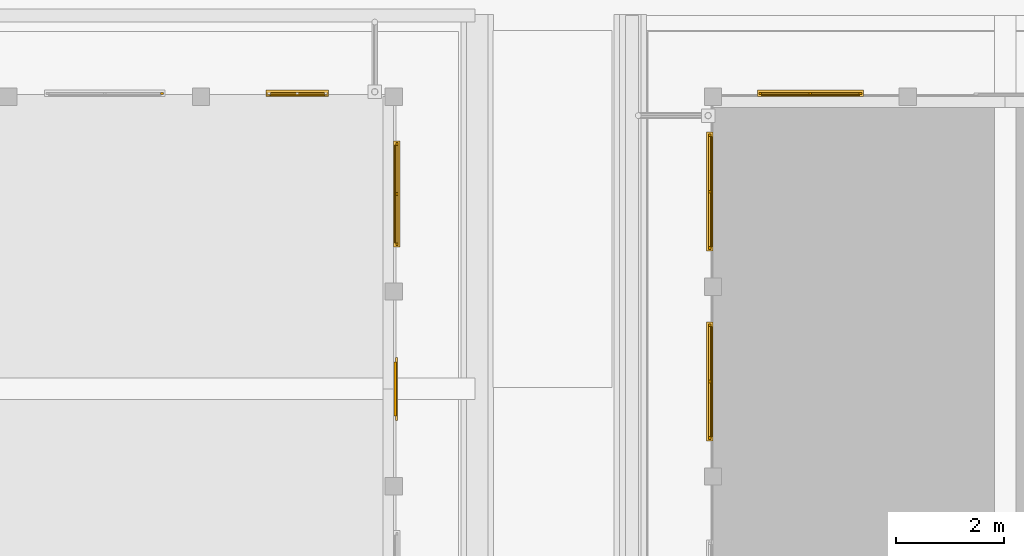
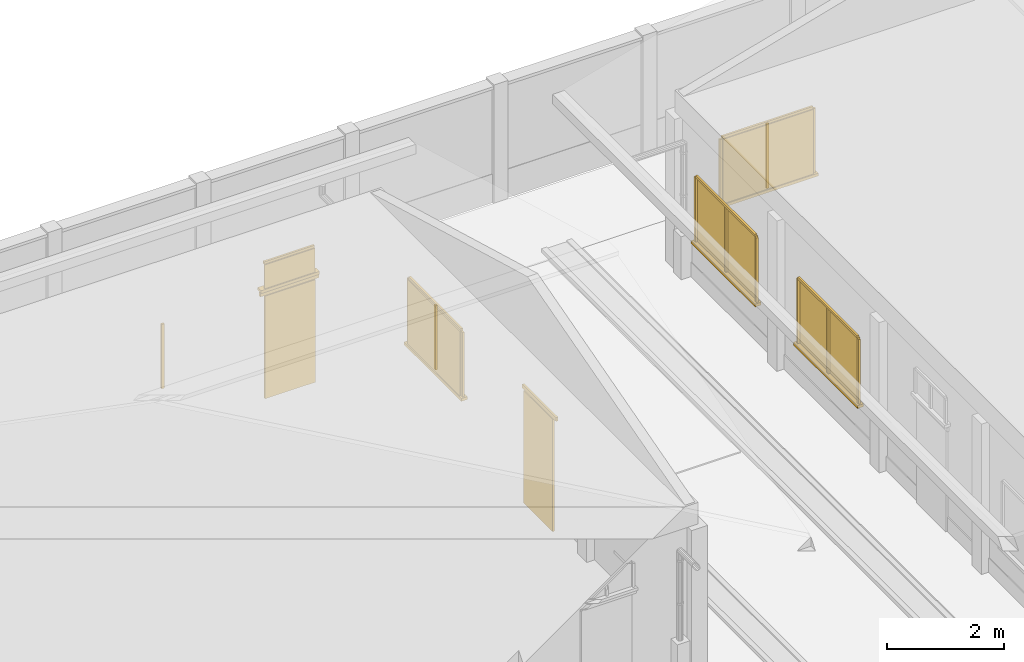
# One storey, part 70 of 177: 28 windows, 4 doors.
"""IFC4 building model written with IfcOpenShell, lengths in metres."""

from ifc_helpers import new_model, si_unit, origin, origin_with_axes, place, context, subcontext, project, spatial, triangles, element, save


model = new_model("IFC4")

# Units and contexts
model_context = context("Model", 3, precision=1e-05, world=origin_with_axes())
body_context = subcontext(model_context, "Body", "Model", "MODEL_VIEW")
ifc_project = project(units=[si_unit("LENGTHUNIT", "METRE"), si_unit("AREAUNIT", "SQUARE_METRE"), si_unit("VOLUMEUNIT", "CUBIC_METRE"), si_unit("PLANEANGLEUNIT", "RADIAN")], contexts=[model_context])

# Site, building, storey
site_placement = place(None, origin_with_axes())
site = spatial("IfcSite", under=ifc_project, at=site_placement, Name="Predio Los Mangos - Morales, San Martín", CompositionType="ELEMENT")
building_placement = place(site_placement, origin())
building = spatial("IfcBuilding", under=site, at=building_placement, Name="Hogar de Refugio Temporal", CompositionType="ELEMENT")
storey_placement = place(building_placement, origin())
storey = spatial("IfcBuildingStorey", under=building, at=storey_placement, Name="NIVEL 1 (NPT +0.00)", CompositionType="ELEMENT", Elevation=0.0)

# Window
window_1_placement = place(storey_placement, origin())
element("IfcWindow", 1, at=window_1_placement, inside=storey, Name="E-08_v3_m", ObjectType="Ventana", PredefinedType="WINDOW", context=body_context, shape_type="Tessellation", body=[
    triangles([(45.4924, 127.84, 1.05), (45.5424, 127.84, 1.05), (45.5424, 127.88, 1.05), (45.4924, 127.88, 1.05), (45.4924, 127.84, 2.4), (45.5424, 127.84, 2.4), (45.5424, 127.88, 2.4), (45.4924, 127.88, 2.4)], [[1, 4, 3], [1, 3, 2], [5, 6, 7], [5, 7, 8], [1, 2, 6], [1, 6, 5], [2, 3, 7], [2, 7, 6], [3, 4, 8], [3, 8, 7], [4, 1, 5], [4, 5, 8]]),
])

# Doors
door_1_placement = place(storey_placement, origin())
element("IfcDoor", 2, at=door_1_placement, inside=storey, Name="E-08_p4", ObjectType="Puerta", PredefinedType="DOOR", context=body_context, shape_type="Tessellation", body=[
    triangles([(47.52, 127.81, 0.15), (48.52, 127.81, 0.15), (48.52, 127.85, 0.15), (47.52, 127.85, 0.15), (47.52, 127.81, 2.3), (48.52, 127.81, 2.3), (48.52, 127.85, 2.3), (47.52, 127.85, 2.3)], [[1, 4, 3], [1, 3, 2], [5, 6, 7], [5, 7, 8], [1, 2, 6], [1, 6, 5], [2, 3, 7], [2, 7, 6], [3, 4, 8], [3, 8, 7], [4, 1, 5], [4, 5, 8]]),
])
door_2_placement = place(storey_placement, origin())
element("IfcDoor", 3, at=door_2_placement, inside=storey, Name="E-08_p4_marco", ObjectType="Puerta", PredefinedType="DOOR", context=body_context, shape_type="Tessellation", body=[
    triangles([(47.44, 127.83, 2.3), (48.6, 127.83, 2.3), (48.6, 127.87, 2.3), (47.44, 127.87, 2.3), (47.44, 127.83, 2.38), (48.6, 127.83, 2.38), (48.6, 127.87, 2.38), (47.44, 127.87, 2.38)], [[1, 4, 3], [1, 3, 2], [5, 6, 7], [5, 7, 8], [1, 2, 6], [1, 6, 5], [2, 3, 7], [2, 7, 6], [3, 4, 8], [3, 8, 7], [4, 1, 5], [4, 5, 8]]),
])

# Windows
window_2_placement = place(storey_placement, origin())
element("IfcWindow", 4, at=window_2_placement, inside=storey, Name="E-08_vt4_vid", ObjectType="Ventana", PredefinedType="WINDOW", context=body_context, shape_type="Tessellation", body=[
    triangles([(47.52, 127.82, 2.45), (48.52, 127.82, 2.45), (48.52, 127.84, 2.45), (47.52, 127.84, 2.45), (47.52, 127.82, 2.95), (48.52, 127.82, 2.95), (48.52, 127.84, 2.95), (47.52, 127.84, 2.95)], [[1, 4, 3], [1, 3, 2], [5, 6, 7], [5, 7, 8], [1, 2, 6], [1, 6, 5], [2, 3, 7], [2, 7, 6], [3, 4, 8], [3, 8, 7], [4, 1, 5], [4, 5, 8]]),
])
window_3_placement = place(storey_placement, origin())
element("IfcWindow", 5, at=window_3_placement, inside=storey, Name="E-08_vt4_m", ObjectType="Ventana", PredefinedType="WINDOW", context=body_context, shape_type="Tessellation", body=[
    triangles([(47.52, 127.84, 2.95), (48.52, 127.84, 2.95), (48.52, 127.88, 2.95), (47.52, 127.88, 2.95), (47.52, 127.84, 3.0), (48.52, 127.84, 3.0), (48.52, 127.88, 3.0), (47.52, 127.88, 3.0)], [[1, 4, 3], [1, 3, 2], [5, 6, 7], [5, 7, 8], [1, 2, 6], [1, 6, 5], [2, 3, 7], [2, 7, 6], [3, 4, 8], [3, 8, 7], [4, 1, 5], [4, 5, 8]]),
])
window_4_placement = place(storey_placement, origin())
element("IfcWindow", 6, at=window_4_placement, inside=storey, Name="E-08_vt4_alf", ObjectType="Ventana", PredefinedType="WINDOW", context=body_context, shape_type="Tessellation", body=[
    triangles([(47.44, 127.8, 2.39), (48.6, 127.8, 2.39), (48.6, 127.92, 2.39), (47.44, 127.92, 2.39), (47.44, 127.8, 2.45), (48.6, 127.8, 2.45), (48.6, 127.92, 2.45), (47.44, 127.92, 2.45)], [[1, 4, 3], [1, 3, 2], [5, 6, 7], [5, 7, 8], [1, 2, 6], [1, 6, 5], [2, 3, 7], [2, 7, 6], [3, 4, 8], [3, 8, 7], [4, 1, 5], [4, 5, 8]]),
])

# Doors
door_3_placement = place(storey_placement, origin())
element("IfcDoor", 7, at=door_3_placement, inside=storey, Name="E-08_pp", ObjectType="Puerta", PredefinedType="DOOR", context=body_context, shape_type="Tessellation", body=[
    triangles([(49.81, 121.9, 0.15), (49.85, 121.9, 0.15), (49.85, 122.9, 0.15), (49.81, 122.9, 0.15), (49.81, 121.9, 2.5), (49.85, 121.9, 2.5), (49.85, 122.9, 2.5), (49.81, 122.9, 2.5)], [[1, 4, 3], [1, 3, 2], [5, 6, 7], [5, 7, 8], [1, 2, 6], [1, 6, 5], [2, 3, 7], [2, 7, 6], [3, 4, 8], [3, 8, 7], [4, 1, 5], [4, 5, 8]]),
])
door_4_placement = place(storey_placement, origin())
element("IfcDoor", 8, at=door_4_placement, inside=storey, Name="E-08_pp_marco", ObjectType="Puerta", PredefinedType="DOOR", context=body_context, shape_type="Tessellation", body=[
    triangles([(49.83, 121.82, 2.5), (49.87, 121.82, 2.5), (49.87, 122.98, 2.5), (49.83, 122.98, 2.5), (49.83, 121.82, 2.58), (49.87, 121.82, 2.58), (49.87, 122.98, 2.58), (49.83, 122.98, 2.58)], [[1, 4, 3], [1, 3, 2], [5, 6, 7], [5, 7, 8], [1, 2, 6], [1, 6, 5], [2, 3, 7], [2, 7, 6], [3, 4, 8], [3, 8, 7], [4, 1, 5], [4, 5, 8]]),
])

# Windows
window_5_placement = place(storey_placement, origin())
element("IfcWindow", 9, at=window_5_placement, inside=storey, Name="E-08_vg2_vid", ObjectType="Ventana", PredefinedType="WINDOW", context=body_context, shape_type="Tessellation", body=[
    triangles([(49.82, 125.1, 1.05), (49.84, 125.1, 1.05), (49.84, 126.9, 1.05), (49.82, 126.9, 1.05), (49.82, 125.1, 2.4), (49.84, 125.1, 2.4), (49.84, 126.9, 2.4), (49.82, 126.9, 2.4)], [[1, 4, 3], [1, 3, 2], [5, 6, 7], [5, 7, 8], [1, 2, 6], [1, 6, 5], [2, 3, 7], [2, 7, 6], [3, 4, 8], [3, 8, 7], [4, 1, 5], [4, 5, 8]]),
])
window_6_placement = place(storey_placement, origin())
element("IfcWindow", 10, at=window_6_placement, inside=storey, Name="E-08_vg2_m", ObjectType="Ventana", PredefinedType="WINDOW", context=body_context, shape_type="Tessellation", body=[
    triangles([(49.84, 125.05, 1.05), (49.88, 125.05, 1.05), (49.88, 125.1, 1.05), (49.84, 125.1, 1.05), (49.84, 125.05, 2.4), (49.88, 125.05, 2.4), (49.88, 125.1, 2.4), (49.84, 125.1, 2.4)], [[1, 4, 3], [1, 3, 2], [5, 6, 7], [5, 7, 8], [1, 2, 6], [1, 6, 5], [2, 3, 7], [2, 7, 6], [3, 4, 8], [3, 8, 7], [4, 1, 5], [4, 5, 8]]),
])
window_7_placement = place(storey_placement, origin())
element("IfcWindow", 11, at=window_7_placement, inside=storey, Name="E-08_vg2_m", ObjectType="Ventana", PredefinedType="WINDOW", context=body_context, shape_type="Tessellation", body=[
    triangles([(49.84, 126.9, 1.05), (49.88, 126.9, 1.05), (49.88, 126.95, 1.05), (49.84, 126.95, 1.05), (49.84, 126.9, 2.4), (49.88, 126.9, 2.4), (49.88, 126.95, 2.4), (49.84, 126.95, 2.4)], [[1, 4, 3], [1, 3, 2], [5, 6, 7], [5, 7, 8], [1, 2, 6], [1, 6, 5], [2, 3, 7], [2, 7, 6], [3, 4, 8], [3, 8, 7], [4, 1, 5], [4, 5, 8]]),
])
window_8_placement = place(storey_placement, origin())
element("IfcWindow", 12, at=window_8_placement, inside=storey, Name="E-08_vg2_m", ObjectType="Ventana", PredefinedType="WINDOW", context=body_context, shape_type="Tessellation", body=[
    triangles([(49.84, 125.1, 2.4), (49.88, 125.1, 2.4), (49.88, 126.9, 2.4), (49.84, 126.9, 2.4), (49.84, 125.1, 2.45), (49.88, 125.1, 2.45), (49.88, 126.9, 2.45), (49.84, 126.9, 2.45)], [[1, 4, 3], [1, 3, 2], [5, 6, 7], [5, 7, 8], [1, 2, 6], [1, 6, 5], [2, 3, 7], [2, 7, 6], [3, 4, 8], [3, 8, 7], [4, 1, 5], [4, 5, 8]]),
])
window_9_placement = place(storey_placement, origin())
element("IfcWindow", 13, at=window_9_placement, inside=storey, Name="E-08_vg2_m", ObjectType="Ventana", PredefinedType="WINDOW", context=body_context, shape_type="Tessellation", body=[
    triangles([(49.84, 125.975, 1.05), (49.88, 125.975, 1.05), (49.88, 126.025, 1.05), (49.84, 126.025, 1.05), (49.84, 125.975, 2.4), (49.88, 125.975, 2.4), (49.88, 126.025, 2.4), (49.84, 126.025, 2.4)], [[1, 4, 3], [1, 3, 2], [5, 6, 7], [5, 7, 8], [1, 2, 6], [1, 6, 5], [2, 3, 7], [2, 7, 6], [3, 4, 8], [3, 8, 7], [4, 1, 5], [4, 5, 8]]),
])
window_10_placement = place(storey_placement, origin())
element("IfcWindow", 14, at=window_10_placement, inside=storey, Name="E-08_vg2_alf", ObjectType="Ventana", PredefinedType="WINDOW", context=body_context, shape_type="Tessellation", body=[
    triangles([(49.8, 125.02, 0.99), (49.92, 125.02, 0.99), (49.92, 126.98, 0.99), (49.8, 126.98, 0.99), (49.8, 125.02, 1.05), (49.92, 125.02, 1.05), (49.92, 126.98, 1.05), (49.8, 126.98, 1.05)], [[1, 4, 3], [1, 3, 2], [5, 6, 7], [5, 7, 8], [1, 2, 6], [1, 6, 5], [2, 3, 7], [2, 7, 6], [3, 4, 8], [3, 8, 7], [4, 1, 5], [4, 5, 8]]),
])
window_11_placement = place(storey_placement, origin())
element("IfcWindow", 15, at=window_11_placement, inside=storey, Name="E-07_vg0_vid", ObjectType="Ventana", PredefinedType="WINDOW", context=body_context, shape_type="Tessellation", body=[
    triangles([(56.6, 127.82, 1.05), (58.4, 127.82, 1.05), (58.4, 127.84, 1.05), (56.6, 127.84, 1.05), (56.6, 127.82, 2.4), (58.4, 127.82, 2.4), (58.4, 127.84, 2.4), (56.6, 127.84, 2.4)], [[1, 4, 3], [1, 3, 2], [5, 6, 7], [5, 7, 8], [1, 2, 6], [1, 6, 5], [2, 3, 7], [2, 7, 6], [3, 4, 8], [3, 8, 7], [4, 1, 5], [4, 5, 8]]),
])
window_12_placement = place(storey_placement, origin())
element("IfcWindow", 16, at=window_12_placement, inside=storey, Name="E-07_vg0_m", ObjectType="Ventana", PredefinedType="WINDOW", context=body_context, shape_type="Tessellation", body=[
    triangles([(56.55, 127.84, 1.05), (56.6, 127.84, 1.05), (56.6, 127.88, 1.05), (56.55, 127.88, 1.05), (56.55, 127.84, 2.4), (56.6, 127.84, 2.4), (56.6, 127.88, 2.4), (56.55, 127.88, 2.4)], [[1, 4, 3], [1, 3, 2], [5, 6, 7], [5, 7, 8], [1, 2, 6], [1, 6, 5], [2, 3, 7], [2, 7, 6], [3, 4, 8], [3, 8, 7], [4, 1, 5], [4, 5, 8]]),
])
window_13_placement = place(storey_placement, origin())
element("IfcWindow", 17, at=window_13_placement, inside=storey, Name="E-07_vg0_m", ObjectType="Ventana", PredefinedType="WINDOW", context=body_context, shape_type="Tessellation", body=[
    triangles([(58.4, 127.84, 1.05), (58.45, 127.84, 1.05), (58.45, 127.88, 1.05), (58.4, 127.88, 1.05), (58.4, 127.84, 2.4), (58.45, 127.84, 2.4), (58.45, 127.88, 2.4), (58.4, 127.88, 2.4)], [[1, 4, 3], [1, 3, 2], [5, 6, 7], [5, 7, 8], [1, 2, 6], [1, 6, 5], [2, 3, 7], [2, 7, 6], [3, 4, 8], [3, 8, 7], [4, 1, 5], [4, 5, 8]]),
])
window_14_placement = place(storey_placement, origin())
element("IfcWindow", 18, at=window_14_placement, inside=storey, Name="E-07_vg0_m", ObjectType="Ventana", PredefinedType="WINDOW", context=body_context, shape_type="Tessellation", body=[
    triangles([(56.6, 127.84, 2.4), (58.4, 127.84, 2.4), (58.4, 127.88, 2.4), (56.6, 127.88, 2.4), (56.6, 127.84, 2.45), (58.4, 127.84, 2.45), (58.4, 127.88, 2.45), (56.6, 127.88, 2.45)], [[1, 4, 3], [1, 3, 2], [5, 6, 7], [5, 7, 8], [1, 2, 6], [1, 6, 5], [2, 3, 7], [2, 7, 6], [3, 4, 8], [3, 8, 7], [4, 1, 5], [4, 5, 8]]),
])
window_15_placement = place(storey_placement, origin())
element("IfcWindow", 19, at=window_15_placement, inside=storey, Name="E-07_vg0_m", ObjectType="Ventana", PredefinedType="WINDOW", context=body_context, shape_type="Tessellation", body=[
    triangles([(57.475, 127.84, 1.05), (57.525, 127.84, 1.05), (57.525, 127.88, 1.05), (57.475, 127.88, 1.05), (57.475, 127.84, 2.4), (57.525, 127.84, 2.4), (57.525, 127.88, 2.4), (57.475, 127.88, 2.4)], [[1, 4, 3], [1, 3, 2], [5, 6, 7], [5, 7, 8], [1, 2, 6], [1, 6, 5], [2, 3, 7], [2, 7, 6], [3, 4, 8], [3, 8, 7], [4, 1, 5], [4, 5, 8]]),
])
window_16_placement = place(storey_placement, origin())
element("IfcWindow", 20, at=window_16_placement, inside=storey, Name="E-07_vg0_alf", ObjectType="Ventana", PredefinedType="WINDOW", context=body_context, shape_type="Tessellation", body=[
    triangles([(56.52, 127.8, 0.99), (58.48, 127.8, 0.99), (58.48, 127.92, 0.99), (56.52, 127.92, 0.99), (56.52, 127.8, 1.05), (58.48, 127.8, 1.05), (58.48, 127.92, 1.05), (56.52, 127.92, 1.05)], [[1, 4, 3], [1, 3, 2], [5, 6, 7], [5, 7, 8], [1, 2, 6], [1, 6, 5], [2, 3, 7], [2, 7, 6], [3, 4, 8], [3, 8, 7], [4, 1, 5], [4, 5, 8]]),
])
window_17_placement = place(storey_placement, origin())
element("IfcWindow", 21, at=window_17_placement, inside=storey, Name="E-07_v8_vid", ObjectType="Ventana", PredefinedType="WINDOW", context=body_context, shape_type="Tessellation", body=[
    triangles([(55.66, 121.5171, 1.05), (55.68, 121.5171, 1.05), (55.68, 123.5529, 1.05), (55.66, 123.5529, 1.05), (55.66, 121.5171, 2.4), (55.68, 121.5171, 2.4), (55.68, 123.5529, 2.4), (55.66, 123.5529, 2.4)], [[1, 4, 3], [1, 3, 2], [5, 6, 7], [5, 7, 8], [1, 2, 6], [1, 6, 5], [2, 3, 7], [2, 7, 6], [3, 4, 8], [3, 8, 7], [4, 1, 5], [4, 5, 8]]),
])
window_18_placement = place(storey_placement, origin())
element("IfcWindow", 22, at=window_18_placement, inside=storey, Name="E-07_v8_m", ObjectType="Ventana", PredefinedType="WINDOW", context=body_context, shape_type="Tessellation", body=[
    triangles([(55.62, 121.4671, 1.05), (55.66, 121.4671, 1.05), (55.66, 121.5171, 1.05), (55.62, 121.5171, 1.05), (55.62, 121.4671, 2.4), (55.66, 121.4671, 2.4), (55.66, 121.5171, 2.4), (55.62, 121.5171, 2.4)], [[1, 4, 3], [1, 3, 2], [5, 6, 7], [5, 7, 8], [1, 2, 6], [1, 6, 5], [2, 3, 7], [2, 7, 6], [3, 4, 8], [3, 8, 7], [4, 1, 5], [4, 5, 8]]),
])
window_19_placement = place(storey_placement, origin())
element("IfcWindow", 23, at=window_19_placement, inside=storey, Name="E-07_v8_m", ObjectType="Ventana", PredefinedType="WINDOW", context=body_context, shape_type="Tessellation", body=[
    triangles([(55.62, 123.5529, 1.05), (55.66, 123.5529, 1.05), (55.66, 123.6029, 1.05), (55.62, 123.6029, 1.05), (55.62, 123.5529, 2.4), (55.66, 123.5529, 2.4), (55.66, 123.6029, 2.4), (55.62, 123.6029, 2.4)], [[1, 4, 3], [1, 3, 2], [5, 6, 7], [5, 7, 8], [1, 2, 6], [1, 6, 5], [2, 3, 7], [2, 7, 6], [3, 4, 8], [3, 8, 7], [4, 1, 5], [4, 5, 8]]),
])
window_20_placement = place(storey_placement, origin())
element("IfcWindow", 24, at=window_20_placement, inside=storey, Name="E-07_v8_m", ObjectType="Ventana", PredefinedType="WINDOW", context=body_context, shape_type="Tessellation", body=[
    triangles([(55.62, 121.5171, 2.4), (55.66, 121.5171, 2.4), (55.66, 123.5529, 2.4), (55.62, 123.5529, 2.4), (55.62, 121.5171, 2.45), (55.66, 121.5171, 2.45), (55.66, 123.5529, 2.45), (55.62, 123.5529, 2.45)], [[1, 4, 3], [1, 3, 2], [5, 6, 7], [5, 7, 8], [1, 2, 6], [1, 6, 5], [2, 3, 7], [2, 7, 6], [3, 4, 8], [3, 8, 7], [4, 1, 5], [4, 5, 8]]),
])
window_21_placement = place(storey_placement, origin())
element("IfcWindow", 25, at=window_21_placement, inside=storey, Name="E-07_v8_m", ObjectType="Ventana", PredefinedType="WINDOW", context=body_context, shape_type="Tessellation", body=[
    triangles([(55.62, 122.51, 1.05), (55.66, 122.51, 1.05), (55.66, 122.56, 1.05), (55.62, 122.56, 1.05), (55.62, 122.51, 2.4), (55.66, 122.51, 2.4), (55.66, 122.56, 2.4), (55.62, 122.56, 2.4)], [[1, 4, 3], [1, 3, 2], [5, 6, 7], [5, 7, 8], [1, 2, 6], [1, 6, 5], [2, 3, 7], [2, 7, 6], [3, 4, 8], [3, 8, 7], [4, 1, 5], [4, 5, 8]]),
])
window_22_placement = place(storey_placement, origin())
element("IfcWindow", 26, at=window_22_placement, inside=storey, Name="E-07_v8_alf", ObjectType="Ventana", PredefinedType="WINDOW", context=body_context, shape_type="Tessellation", body=[
    triangles([(55.7, 121.4371, 0.99), (55.58, 121.4371, 0.99), (55.58, 123.6329, 0.99), (55.7, 123.6329, 0.99), (55.7, 121.4371, 1.05), (55.58, 121.4371, 1.05), (55.58, 123.6329, 1.05), (55.7, 123.6329, 1.05)], [[1, 4, 3], [1, 3, 2], [5, 6, 7], [5, 7, 8], [1, 2, 6], [1, 6, 5], [2, 3, 7], [2, 7, 6], [3, 4, 8], [3, 8, 7], [4, 1, 5], [4, 5, 8]]),
])
window_23_placement = place(storey_placement, origin())
element("IfcWindow", 27, at=window_23_placement, inside=storey, Name="E-07_v9_vid", ObjectType="Ventana", PredefinedType="WINDOW", context=body_context, shape_type="Tessellation", body=[
    triangles([(55.66, 125.0271, 1.05), (55.68, 125.0271, 1.05), (55.68, 127.0629, 1.05), (55.66, 127.0629, 1.05), (55.66, 125.0271, 2.4), (55.68, 125.0271, 2.4), (55.68, 127.0629, 2.4), (55.66, 127.0629, 2.4)], [[1, 4, 3], [1, 3, 2], [5, 6, 7], [5, 7, 8], [1, 2, 6], [1, 6, 5], [2, 3, 7], [2, 7, 6], [3, 4, 8], [3, 8, 7], [4, 1, 5], [4, 5, 8]]),
])
window_24_placement = place(storey_placement, origin())
element("IfcWindow", 28, at=window_24_placement, inside=storey, Name="E-07_v9_m", ObjectType="Ventana", PredefinedType="WINDOW", context=body_context, shape_type="Tessellation", body=[
    triangles([(55.62, 124.9771, 1.05), (55.66, 124.9771, 1.05), (55.66, 125.0271, 1.05), (55.62, 125.0271, 1.05), (55.62, 124.9771, 2.4), (55.66, 124.9771, 2.4), (55.66, 125.0271, 2.4), (55.62, 125.0271, 2.4)], [[1, 4, 3], [1, 3, 2], [5, 6, 7], [5, 7, 8], [1, 2, 6], [1, 6, 5], [2, 3, 7], [2, 7, 6], [3, 4, 8], [3, 8, 7], [4, 1, 5], [4, 5, 8]]),
])
window_25_placement = place(storey_placement, origin())
element("IfcWindow", 29, at=window_25_placement, inside=storey, Name="E-07_v9_m", ObjectType="Ventana", PredefinedType="WINDOW", context=body_context, shape_type="Tessellation", body=[
    triangles([(55.62, 127.0629, 1.05), (55.66, 127.0629, 1.05), (55.66, 127.1129, 1.05), (55.62, 127.1129, 1.05), (55.62, 127.0629, 2.4), (55.66, 127.0629, 2.4), (55.66, 127.1129, 2.4), (55.62, 127.1129, 2.4)], [[1, 4, 3], [1, 3, 2], [5, 6, 7], [5, 7, 8], [1, 2, 6], [1, 6, 5], [2, 3, 7], [2, 7, 6], [3, 4, 8], [3, 8, 7], [4, 1, 5], [4, 5, 8]]),
])
window_26_placement = place(storey_placement, origin())
element("IfcWindow", 30, at=window_26_placement, inside=storey, Name="E-07_v9_m", ObjectType="Ventana", PredefinedType="WINDOW", context=body_context, shape_type="Tessellation", body=[
    triangles([(55.62, 125.0271, 2.4), (55.66, 125.0271, 2.4), (55.66, 127.0629, 2.4), (55.62, 127.0629, 2.4), (55.62, 125.0271, 2.45), (55.66, 125.0271, 2.45), (55.66, 127.0629, 2.45), (55.62, 127.0629, 2.45)], [[1, 4, 3], [1, 3, 2], [5, 6, 7], [5, 7, 8], [1, 2, 6], [1, 6, 5], [2, 3, 7], [2, 7, 6], [3, 4, 8], [3, 8, 7], [4, 1, 5], [4, 5, 8]]),
])
window_27_placement = place(storey_placement, origin())
element("IfcWindow", 31, at=window_27_placement, inside=storey, Name="E-07_v9_m", ObjectType="Ventana", PredefinedType="WINDOW", context=body_context, shape_type="Tessellation", body=[
    triangles([(55.62, 126.02, 1.05), (55.66, 126.02, 1.05), (55.66, 126.07, 1.05), (55.62, 126.07, 1.05), (55.62, 126.02, 2.4), (55.66, 126.02, 2.4), (55.66, 126.07, 2.4), (55.62, 126.07, 2.4)], [[1, 4, 3], [1, 3, 2], [5, 6, 7], [5, 7, 8], [1, 2, 6], [1, 6, 5], [2, 3, 7], [2, 7, 6], [3, 4, 8], [3, 8, 7], [4, 1, 5], [4, 5, 8]]),
])
window_28_placement = place(storey_placement, origin())
element("IfcWindow", 32, at=window_28_placement, inside=storey, Name="E-07_v9_alf", ObjectType="Ventana", PredefinedType="WINDOW", context=body_context, shape_type="Tessellation", body=[
    triangles([(55.7, 124.9471, 0.99), (55.58, 124.9471, 0.99), (55.58, 127.1429, 0.99), (55.7, 127.1429, 0.99), (55.7, 124.9471, 1.05), (55.58, 124.9471, 1.05), (55.58, 127.1429, 1.05), (55.7, 127.1429, 1.05)], [[1, 4, 3], [1, 3, 2], [5, 6, 7], [5, 7, 8], [1, 2, 6], [1, 6, 5], [2, 3, 7], [2, 7, 6], [3, 4, 8], [3, 8, 7], [4, 1, 5], [4, 5, 8]]),
])

save(model, "model.ifc")
